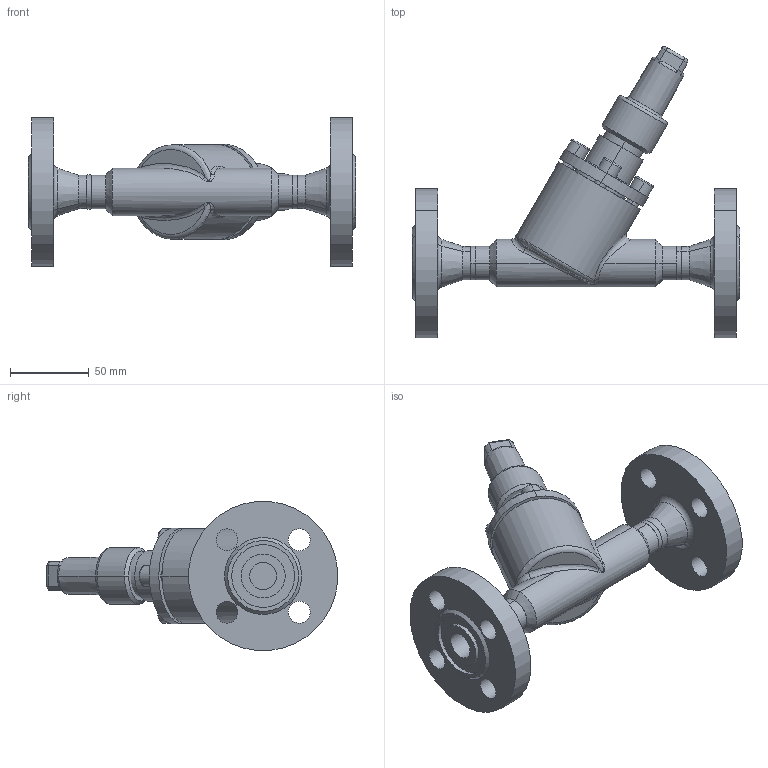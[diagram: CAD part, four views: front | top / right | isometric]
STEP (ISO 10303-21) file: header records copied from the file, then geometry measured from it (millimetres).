
FILE_DESCRIPTION (( 'STEP AP214' ), '1' );
FILE_NAME ('HRAB12320D10-DN015_DIN-FL-N_PS40.STEP', '2006-04-27T11:58:36', ( 'Herr Grams' ), ( 'AWP GmbH' ), 'SwSTEP 2.0', 'SolidWorks 2002296', '' );
FILE_SCHEMA (( 'AUTOMOTIVE_DESIGN' ));
Length unit declared in the file: millimetre
Products named in the file (10): HRAB12320D10-DN015_DIN-FL-N_PS40; Kappe96300E10_DN6-20_Standard; AVB16300K10_Deck+Schr-DN10-20_Standard; Deckel16300K10-DN10-20_Standard; Zylinderschraube-DIN912_M 8x 16; Gehäuse-kpl16320-DN015_DIN_PS40_Standard; bead16320-DN015-2_Standard; bead16320-DN015-1_Standard; Gehäuse16300-DN015_Standard; Flansch-DIN2635-Nut_PS40_DIN-Flansch-DN015_PS40-Nut
Assembly tree (13 placements, depth 3):
  HRAB12320D10-DN015_DIN-FL-N_PS40
    Kappe96300E10_DN6-20_Standard
    AVB16300K10_Deck+Schr-DN10-20_Standard
      Zylinderschraube-DIN912_M 8x 16  x4
      Deckel16300K10-DN10-20_Standard
    Gehäuse-kpl16320-DN015_DIN_PS40_Standard
      bead16320-DN015-2_Standard
      Flansch-DIN2635-Nut_PS40_DIN-Flansch-DN015_PS40-Nut  x2
      Gehäuse16300-DN015_Standard
      bead16320-DN015-1_Standard
Bounding box: 208 x 185.14 x 94.64 mm (x, y, z)
Volume: 460813.4 mm3; surface area: 106207.7 mm2
Topology: 11 solids, 11 shells, 297 faces, 651 edges, 408 vertices
Faces by surface type: cylinder 119, plane 89, cone 46, torus 29, bspline 14
Entity records: 21447 total; most frequent: CARTESIAN_POINT 16000, DIRECTION 1058, ORIENTED_EDGE 930, EDGE_CURVE 465, AXIS2_PLACEMENT_3D 452, VERTEX_POINT 290, EDGE_LOOP 255, CIRCLE 237
